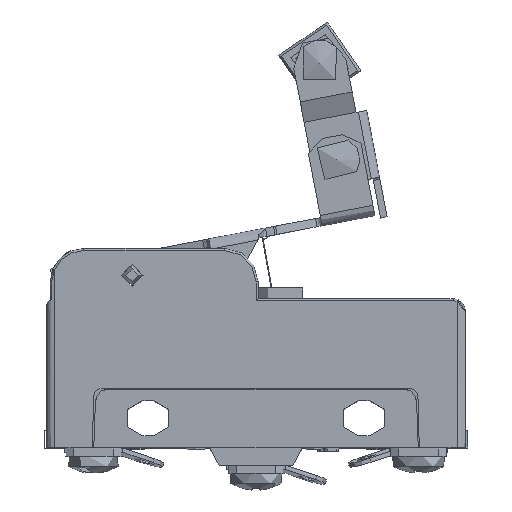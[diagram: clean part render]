
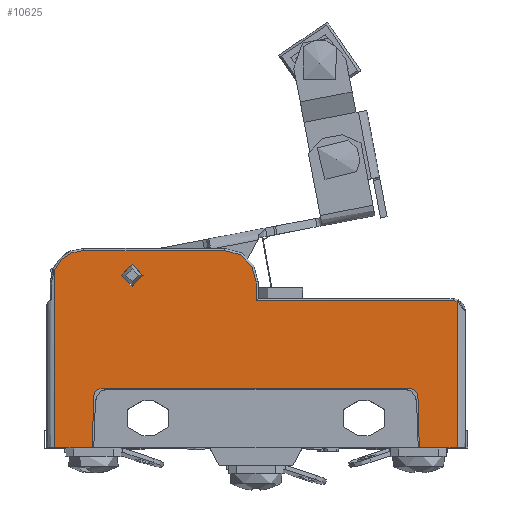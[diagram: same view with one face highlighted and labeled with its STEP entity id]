
A CAD part, top view. The second image highlights one B-rep face of the part: STEP entity #10625.
In plain terms, the highlighted planar face has unit normal (0, 0, 1).
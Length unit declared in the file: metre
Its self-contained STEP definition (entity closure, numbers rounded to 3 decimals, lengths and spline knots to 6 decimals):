
#7741=CARTESIAN_POINT('',(-0.011767,0.013867,0.05815));
#7742=DIRECTION('',(0.,0.,1.));
#7743=DIRECTION('',(1.,0.,0.));
#7744=AXIS2_PLACEMENT_3D('',#7741,#7742,#7743);
#7745=CIRCLE('',#7744,0.0013);
#7746=CARTESIAN_POINT('',(-0.013067,0.013867,0.05815));
#7747=VERTEX_POINT('',#7746);
#7748=EDGE_CURVE('',#7747,#7747,#7745,.T.);
#8989=CARTESIAN_POINT('',(-0.017537,0.016817,0.05815));
#8990=VERTEX_POINT('',#8989);
#9009=CARTESIAN_POINT('',(-0.020992,0.014524,0.05815));
#9010=VERTEX_POINT('',#9009);
#9013=CARTESIAN_POINT('',(-0.017537,0.013067,0.05815));
#9014=DIRECTION('',(0.,0.,-1.));
#9015=DIRECTION('',(-1.,0.,0.));
#9016=AXIS2_PLACEMENT_3D('',#9013,#9014,#9015);
#9017=CIRCLE('',#9016,0.00375);
#9018=EDGE_CURVE('',#9010,#8990,#9017,.T.);
#9139=CARTESIAN_POINT('',(-0.016356,-0.000607,0.05815));
#9140=VERTEX_POINT('',#9139);
#9143=CARTESIAN_POINT('',(-0.016517,-0.006733,0.05815));
#9144=DIRECTION('',(-0.026,-1.,0.));
#9145=VECTOR('',#9144,1.);
#9146=LINE('',#9143,#9145);
#9147=CARTESIAN_POINT('',(-0.016517,-0.006733,0.05815));
#9148=VERTEX_POINT('',#9147);
#9149=EDGE_CURVE('',#9140,#9148,#9146,.T.);
#9187=CARTESIAN_POINT('',(-0.015357,0.000367,0.05815));
#9188=VERTEX_POINT('',#9187);
#9191=CARTESIAN_POINT('',(-0.015357,-0.000633,0.05815));
#9192=DIRECTION('',(0.,0.,1.));
#9193=DIRECTION('',(1.,0.,0.));
#9194=AXIS2_PLACEMENT_3D('',#9191,#9192,#9193);
#9195=CIRCLE('',#9194,0.001);
#9196=EDGE_CURVE('',#9188,#9140,#9195,.T.);
#9228=CARTESIAN_POINT('',(0.021323,0.000367,0.05815));
#9229=VERTEX_POINT('',#9228);
#9232=CARTESIAN_POINT('',(-0.015357,0.000367,0.05815));
#9233=DIRECTION('',(-1.,0.,0.));
#9234=VECTOR('',#9233,1.);
#9235=LINE('',#9232,#9234);
#9236=EDGE_CURVE('',#9229,#9188,#9235,.T.);
#9267=CARTESIAN_POINT('',(0.022323,-0.000607,0.05815));
#9268=VERTEX_POINT('',#9267);
#9271=CARTESIAN_POINT('',(0.021323,-0.000633,0.05815));
#9272=DIRECTION('',(0.,0.,1.));
#9273=DIRECTION('',(1.,0.,0.));
#9274=AXIS2_PLACEMENT_3D('',#9271,#9272,#9273);
#9275=CIRCLE('',#9274,0.001);
#9276=EDGE_CURVE('',#9268,#9229,#9275,.T.);
#9308=CARTESIAN_POINT('',(0.022483,-0.006733,0.05815));
#9309=VERTEX_POINT('',#9308);
#9312=CARTESIAN_POINT('',(0.022483,-0.006733,0.05815));
#9313=DIRECTION('',(-0.026,1.,0.));
#9314=VECTOR('',#9313,1.);
#9315=LINE('',#9312,#9314);
#9316=EDGE_CURVE('',#9309,#9268,#9315,.T.);
#10066=CARTESIAN_POINT('',(-0.021992,-0.006733,0.05815));
#10067=DIRECTION('',(1.,0.,0.));
#10068=VECTOR('',#10067,1.);
#10069=LINE('',#10066,#10068);
#10070=CARTESIAN_POINT('',(-0.020992,-0.006733,0.05815));
#10071=VERTEX_POINT('',#10070);
#10072=EDGE_CURVE('',#10071,#9148,#10069,.T.);
#10185=CARTESIAN_POINT('',(-0.020992,0.011067,0.05815));
#10186=DIRECTION('',(0.,-1.,0.));
#10187=VECTOR('',#10186,1.);
#10188=LINE('',#10185,#10187);
#10189=EDGE_CURVE('',#9010,#10071,#10188,.T.);
#10461=CARTESIAN_POINT('',(0.026508,0.010817,0.05815));
#10462=VERTEX_POINT('',#10461);
#10471=CARTESIAN_POINT('',(0.003009,0.010817,0.05815));
#10472=VERTEX_POINT('',#10471);
#10475=CARTESIAN_POINT('',(0.003259,0.010817,0.05815));
#10476=DIRECTION('',(1.,0.,0.));
#10477=VECTOR('',#10476,1.);
#10478=LINE('',#10475,#10477);
#10479=EDGE_CURVE('',#10472,#10462,#10478,.T.);
#10504=CARTESIAN_POINT('',(0.003009,0.013067,0.05815));
#10505=VERTEX_POINT('',#10504);
#10508=CARTESIAN_POINT('',(0.003009,0.013067,0.05815));
#10509=DIRECTION('',(0.,1.,0.));
#10510=VECTOR('',#10509,1.);
#10511=LINE('',#10508,#10510);
#10512=EDGE_CURVE('',#10472,#10505,#10511,.T.);
#10537=CARTESIAN_POINT('',(-0.000741,0.016817,0.05815));
#10538=VERTEX_POINT('',#10537);
#10541=CARTESIAN_POINT('',(-0.000741,0.013067,0.05815));
#10542=DIRECTION('',(0.,0.,-1.));
#10543=DIRECTION('',(-1.,0.,0.));
#10544=AXIS2_PLACEMENT_3D('',#10541,#10542,#10543);
#10545=CIRCLE('',#10544,0.00375);
#10546=EDGE_CURVE('',#10538,#10505,#10545,.T.);
#10567=CARTESIAN_POINT('',(-0.017537,0.016817,0.05815));
#10568=DIRECTION('',(-1.,0.,0.));
#10569=VECTOR('',#10568,1.);
#10570=LINE('',#10567,#10569);
#10571=EDGE_CURVE('',#10538,#8990,#10570,.T.);
#10584=CARTESIAN_POINT('',(-0.021992,0.011067,0.05815));
#10585=DIRECTION('',(0.,0.,-1.));
#10586=DIRECTION('',(-1.,0.,0.));
#10587=AXIS2_PLACEMENT_3D('',#10584,#10585,#10586);
#10588=PLANE('',#10587);
#10589=ORIENTED_EDGE('',*,*,#10571,.T.);
#10590=ORIENTED_EDGE('',*,*,#9018,.F.);
#10591=ORIENTED_EDGE('',*,*,#10189,.T.);
#10592=ORIENTED_EDGE('',*,*,#10072,.T.);
#10593=ORIENTED_EDGE('',*,*,#9149,.F.);
#10594=ORIENTED_EDGE('',*,*,#9196,.F.);
#10595=ORIENTED_EDGE('',*,*,#9236,.F.);
#10596=ORIENTED_EDGE('',*,*,#9276,.F.);
#10597=ORIENTED_EDGE('',*,*,#9316,.F.);
#10598=CARTESIAN_POINT('',(0.027008,-0.006733,0.05815));
#10599=VERTEX_POINT('',#10598);
#10600=EDGE_CURVE('',#9309,#10599,#10069,.T.);
#10601=ORIENTED_EDGE('',*,*,#10600,.T.);
#10602=CARTESIAN_POINT('',(0.027008,0.011067,0.05815));
#10603=DIRECTION('',(0.,-1.,0.));
#10604=VECTOR('',#10603,1.);
#10605=LINE('',#10602,#10604);
#10606=CARTESIAN_POINT('',(0.027008,0.010713,0.05815));
#10607=VERTEX_POINT('',#10606);
#10608=EDGE_CURVE('',#10607,#10599,#10605,.T.);
#10609=ORIENTED_EDGE('',*,*,#10608,.F.);
#10610=CARTESIAN_POINT('',(0.026508,0.009567,0.05815));
#10611=DIRECTION('',(0.,0.,-1.));
#10612=DIRECTION('',(-1.,0.,0.));
#10613=AXIS2_PLACEMENT_3D('',#10610,#10611,#10612);
#10614=CIRCLE('',#10613,0.00125);
#10615=EDGE_CURVE('',#10462,#10607,#10614,.T.);
#10616=ORIENTED_EDGE('',*,*,#10615,.F.);
#10617=ORIENTED_EDGE('',*,*,#10479,.F.);
#10618=ORIENTED_EDGE('',*,*,#10512,.T.);
#10619=ORIENTED_EDGE('',*,*,#10546,.F.);
#10620=EDGE_LOOP('',(#10589,#10590,#10591,#10592,#10593,#10594,#10595,#10596,#10597,#10601,#10609,#10616,#10617,#10618,#10619));
#10621=FACE_BOUND('',#10620,.T.);
#10622=ORIENTED_EDGE('',*,*,#7748,.F.);
#10623=EDGE_LOOP('',(#10622));
#10624=FACE_BOUND('',#10623,.T.);
#10625=ADVANCED_FACE('',(#10621,#10624),#10588,.F.);
